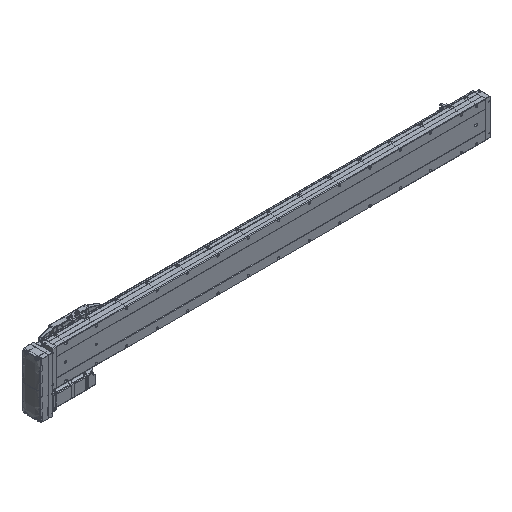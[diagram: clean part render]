
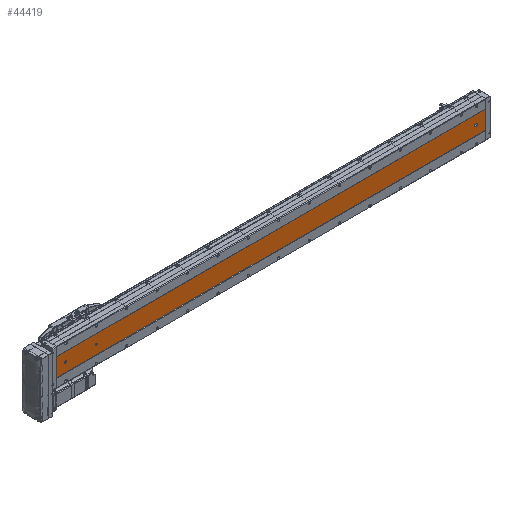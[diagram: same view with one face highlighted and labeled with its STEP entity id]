
A CAD part, isometric view. The second image highlights one B-rep face of the part: STEP entity #44419.
In plain terms, the highlighted planar face has unit normal (0, -1, 0).
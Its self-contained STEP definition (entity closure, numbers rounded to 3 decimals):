
#1470 = VERTEX_POINT ( 'NONE', #53469 ) ;
#2021 = DIRECTION ( 'NONE',  ( 0., 0., -1. ) ) ;
#4952 = EDGE_CURVE ( 'NONE', #8495, #11008, #21646, .T. ) ;
#5811 = EDGE_CURVE ( 'NONE', #59534, #90832, #36756, .T. ) ;
#6170 = FACE_BOUND ( 'NONE', #33768, .T. ) ;
#6333 = DIRECTION ( 'NONE',  ( 0., 1., 0. ) ) ;
#8092 = CARTESIAN_POINT ( 'NONE',  ( -39.892, -52.848, 1284.5 ) ) ;
#8495 = VERTEX_POINT ( 'NONE', #46747 ) ;
#9749 = CARTESIAN_POINT ( 'NONE',  ( -36.392, -52.848, 30. ) ) ;
#10034 = CARTESIAN_POINT ( 'NONE',  ( -39.892, -52.848, 1281. ) ) ;
#10405 = EDGE_CURVE ( 'NONE', #15813, #61700, #83488, .T. ) ;
#10669 = FACE_OUTER_BOUND ( 'NONE', #27932, .T. ) ;
#10875 = EDGE_CURVE ( 'NONE', #13525, #61534, #40255, .T. ) ;
#11008 = VERTEX_POINT ( 'NONE', #70161 ) ;
#11397 = LINE ( 'NONE', #12558, #54596 ) ;
#12558 = CARTESIAN_POINT ( 'NONE',  ( -9.892, -52.848, 1411. ) ) ;
#13506 = DIRECTION ( 'NONE',  ( 0., 0., 1. ) ) ;
#13525 = VERTEX_POINT ( 'NONE', #47617 ) ;
#15813 = VERTEX_POINT ( 'NONE', #8092 ) ;
#15835 = CARTESIAN_POINT ( 'NONE',  ( -39.892, -52.848, 30. ) ) ;
#16612 = DIRECTION ( 'NONE',  ( 1., 0., 0. ) ) ;
#18465 = EDGE_CURVE ( 'NONE', #43138, #1470, #44384, .T. ) ;
#18560 = CARTESIAN_POINT ( 'NONE',  ( -39.892, -52.848, 1381. ) ) ;
#18658 = DIRECTION ( 'NONE',  ( 0., 1., 0. ) ) ;
#19042 = AXIS2_PLACEMENT_3D ( 'NONE', #21645, #65519, #71106 ) ;
#20510 = CARTESIAN_POINT ( 'NONE',  ( -43.392, -52.848, 30. ) ) ;
#20938 = AXIS2_PLACEMENT_3D ( 'NONE', #10034, #59494, #30457 ) ;
#21645 = CARTESIAN_POINT ( 'NONE',  ( -39.892, -52.848, 1381. ) ) ;
#21646 = LINE ( 'NONE', #69790, #64734 ) ;
#23666 = VECTOR ( 'NONE', #39008, 1000. ) ;
#24876 = EDGE_CURVE ( 'NONE', #1470, #43138, #55262, .T. ) ;
#26003 = DIRECTION ( 'NONE',  ( 0., 1., 0. ) ) ;
#26239 = EDGE_CURVE ( 'NONE', #8495, #88160, #45059, .T. ) ;
#27932 = EDGE_LOOP ( 'NONE', ( #28942, #65263, #83020, #56966 ) ) ;
#27993 = VECTOR ( 'NONE', #16612, 1000. ) ;
#28593 = ORIENTED_EDGE ( 'NONE', *, *, #10875, .T. ) ;
#28942 = ORIENTED_EDGE ( 'NONE', *, *, #90590, .T. ) ;
#30457 = DIRECTION ( 'NONE',  ( 0., 0., 1. ) ) ;
#30660 = AXIS2_PLACEMENT_3D ( 'NONE', #46666, #38685, #88505 ) ;
#30875 = ORIENTED_EDGE ( 'NONE', *, *, #90232, .T. ) ;
#31564 = CARTESIAN_POINT ( 'NONE',  ( -36.392, -52.848, 1411. ) ) ;
#32836 = CARTESIAN_POINT ( 'NONE',  ( -39.892, -52.848, 32. ) ) ;
#32837 = AXIS2_PLACEMENT_3D ( 'NONE', #18560, #26003, #75486 ) ;
#33768 = EDGE_LOOP ( 'NONE', ( #80078, #81582 ) ) ;
#35278 = DIRECTION ( 'NONE',  ( 0., 0., 1. ) ) ;
#36756 = CIRCLE ( 'NONE', #50856, 3.5 ) ;
#36883 = EDGE_CURVE ( 'NONE', #11008, #61368, #11397, .T. ) ;
#37019 = CARTESIAN_POINT ( 'NONE',  ( -69.892, -52.848, 1411. ) ) ;
#37511 = CARTESIAN_POINT ( 'NONE',  ( -43.392, -52.848, 32. ) ) ;
#38250 = CARTESIAN_POINT ( 'NONE',  ( -69.892, -52.848, 0. ) ) ;
#38685 = DIRECTION ( 'NONE',  ( 0., 1., 0. ) ) ;
#38854 = CIRCLE ( 'NONE', #90334, 3.5 ) ;
#38980 = PLANE ( 'NONE',  #30660 ) ;
#39008 = DIRECTION ( 'NONE',  ( 0., 0., -1. ) ) ;
#39705 = AXIS2_PLACEMENT_3D ( 'NONE', #32836, #47068, #74024 ) ;
#39987 = CARTESIAN_POINT ( 'NONE',  ( -39.892, -52.848, 30. ) ) ;
#40255 = LINE ( 'NONE', #31564, #23666 ) ;
#40368 = ORIENTED_EDGE ( 'NONE', *, *, #40563, .T. ) ;
#40563 = EDGE_CURVE ( 'NONE', #90832, #81572, #46732, .T. ) ;
#41033 = CARTESIAN_POINT ( 'NONE',  ( -9.892, -52.848, 0. ) ) ;
#42325 = CARTESIAN_POINT ( 'NONE',  ( -39.892, -52.848, 1384.5 ) ) ;
#43138 = VERTEX_POINT ( 'NONE', #42325 ) ;
#43972 = DIRECTION ( 'NONE',  ( 0., 1., 0. ) ) ;
#44384 = CIRCLE ( 'NONE', #32837, 3.5 ) ;
#44419 = ADVANCED_FACE ( 'NONE', ( #57150, #6170, #48280, #10669 ), #38980, .F. ) ;
#45059 = LINE ( 'NONE', #37019, #84950 ) ;
#45822 = AXIS2_PLACEMENT_3D ( 'NONE', #91192, #6333, #13506 ) ;
#46666 = CARTESIAN_POINT ( 'NONE',  ( -69.892, -52.848, 1411. ) ) ;
#46732 = LINE ( 'NONE', #71456, #87727 ) ;
#46747 = CARTESIAN_POINT ( 'NONE',  ( -69.892, -52.848, 1411. ) ) ;
#47068 = DIRECTION ( 'NONE',  ( 0., 1., 0. ) ) ;
#47326 = CIRCLE ( 'NONE', #45822, 3.5 ) ;
#47617 = CARTESIAN_POINT ( 'NONE',  ( -36.392, -52.848, 32. ) ) ;
#48280 = FACE_BOUND ( 'NONE', #70403, .T. ) ;
#49851 = DIRECTION ( 'NONE',  ( 0., 0., 1. ) ) ;
#50236 = CARTESIAN_POINT ( 'NONE',  ( -69.892, -52.848, 0. ) ) ;
#50856 = AXIS2_PLACEMENT_3D ( 'NONE', #39987, #18658, #74963 ) ;
#53334 = CARTESIAN_POINT ( 'NONE',  ( -39.892, -52.848, 1277.5 ) ) ;
#53469 = CARTESIAN_POINT ( 'NONE',  ( -39.892, -52.848, 1377.5 ) ) ;
#54596 = VECTOR ( 'NONE', #90841, 1000. ) ;
#54710 = EDGE_CURVE ( 'NONE', #61534, #59534, #38854, .T. ) ;
#55262 = CIRCLE ( 'NONE', #19042, 3.5 ) ;
#56966 = ORIENTED_EDGE ( 'NONE', *, *, #26239, .T. ) ;
#57150 = FACE_BOUND ( 'NONE', #61641, .T. ) ;
#58487 = ORIENTED_EDGE ( 'NONE', *, *, #54710, .T. ) ;
#58990 = ORIENTED_EDGE ( 'NONE', *, *, #24876, .T. ) ;
#59494 = DIRECTION ( 'NONE',  ( 0., 1., 0. ) ) ;
#59534 = VERTEX_POINT ( 'NONE', #74018 ) ;
#61368 = VERTEX_POINT ( 'NONE', #41033 ) ;
#61534 = VERTEX_POINT ( 'NONE', #9749 ) ;
#61641 = EDGE_LOOP ( 'NONE', ( #28593, #58487, #64279, #40368, #30875 ) ) ;
#61700 = VERTEX_POINT ( 'NONE', #53334 ) ;
#62691 = DIRECTION ( 'NONE',  ( 1., 0., 0. ) ) ;
#63359 = LINE ( 'NONE', #38250, #27993 ) ;
#64279 = ORIENTED_EDGE ( 'NONE', *, *, #5811, .T. ) ;
#64734 = VECTOR ( 'NONE', #62691, 1000. ) ;
#65263 = ORIENTED_EDGE ( 'NONE', *, *, #36883, .F. ) ;
#65519 = DIRECTION ( 'NONE',  ( 0., 1., 0. ) ) ;
#69790 = CARTESIAN_POINT ( 'NONE',  ( -69.892, -52.848, 1411. ) ) ;
#70161 = CARTESIAN_POINT ( 'NONE',  ( -9.892, -52.848, 1411. ) ) ;
#70403 = EDGE_LOOP ( 'NONE', ( #58990, #74064 ) ) ;
#71106 = DIRECTION ( 'NONE',  ( 0., 0., 1. ) ) ;
#71456 = CARTESIAN_POINT ( 'NONE',  ( -43.392, -52.848, 1411. ) ) ;
#74018 = CARTESIAN_POINT ( 'NONE',  ( -39.892, -52.848, 26.5 ) ) ;
#74024 = DIRECTION ( 'NONE',  ( 0., 0., 1. ) ) ;
#74064 = ORIENTED_EDGE ( 'NONE', *, *, #18465, .T. ) ;
#74963 = DIRECTION ( 'NONE',  ( 0., 0., 1. ) ) ;
#75486 = DIRECTION ( 'NONE',  ( 0., 0., 1. ) ) ;
#78778 = EDGE_CURVE ( 'NONE', #61700, #15813, #47326, .T. ) ;
#80078 = ORIENTED_EDGE ( 'NONE', *, *, #78778, .T. ) ;
#81572 = VERTEX_POINT ( 'NONE', #37511 ) ;
#81582 = ORIENTED_EDGE ( 'NONE', *, *, #10405, .T. ) ;
#83020 = ORIENTED_EDGE ( 'NONE', *, *, #4952, .F. ) ;
#83488 = CIRCLE ( 'NONE', #20938, 3.5 ) ;
#84950 = VECTOR ( 'NONE', #2021, 1000. ) ;
#86693 = CIRCLE ( 'NONE', #39705, 3.5 ) ;
#87727 = VECTOR ( 'NONE', #35278, 1000. ) ;
#88160 = VERTEX_POINT ( 'NONE', #50236 ) ;
#88505 = DIRECTION ( 'NONE',  ( 0., 0., 1. ) ) ;
#90232 = EDGE_CURVE ( 'NONE', #81572, #13525, #86693, .T. ) ;
#90334 = AXIS2_PLACEMENT_3D ( 'NONE', #15835, #43972, #49851 ) ;
#90590 = EDGE_CURVE ( 'NONE', #88160, #61368, #63359, .T. ) ;
#90832 = VERTEX_POINT ( 'NONE', #20510 ) ;
#90841 = DIRECTION ( 'NONE',  ( 0., 0., -1. ) ) ;
#91192 = CARTESIAN_POINT ( 'NONE',  ( -39.892, -52.848, 1281. ) ) ;
